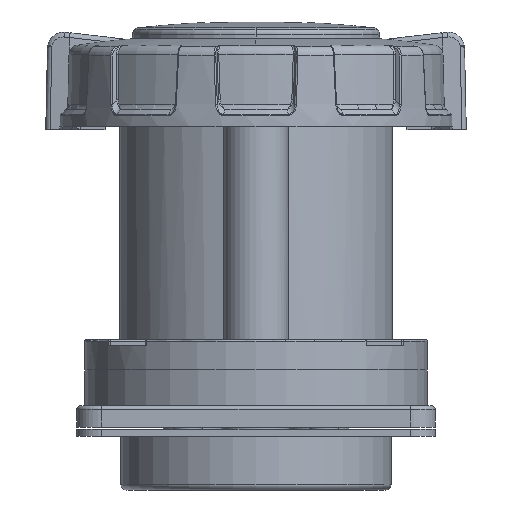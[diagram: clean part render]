
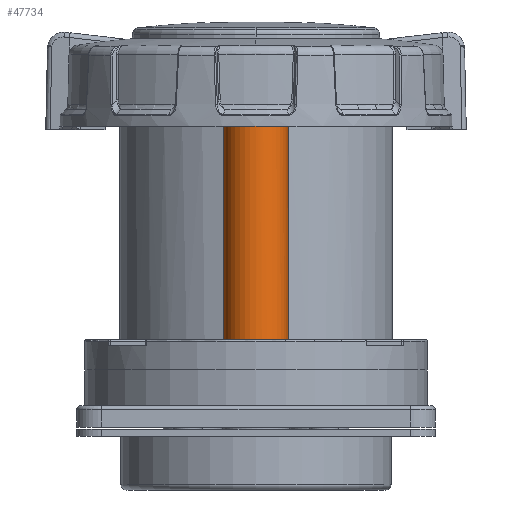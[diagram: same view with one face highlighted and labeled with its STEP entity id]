
A CAD part, front view. The second image highlights one B-rep face of the part: STEP entity #47734.
In plain terms, the highlighted cylindrical face has radius 9 mm (diameter 18 mm), a partial arc.
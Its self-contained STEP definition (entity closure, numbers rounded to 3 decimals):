
#46187 = VERTEX_POINT('',#46188);
#46188 = CARTESIAN_POINT('',(0.,-46.5,59.8));
#46291 = VERTEX_POINT('',#46292);
#46292 = CARTESIAN_POINT('',(8.209,-41.19,
    62.43));
#46299 = EDGE_CURVE('',#46300,#46291,#46302,.T.);
#46300 = VERTEX_POINT('',#46301);
#46301 = CARTESIAN_POINT('',(8.209,-41.19,
    60.3));
#46302 = LINE('',#46303,#46304);
#46303 = CARTESIAN_POINT('',(8.209,-41.19,60.3));
#46304 = VECTOR('',#46305,1.);
#46305 = DIRECTION('',(0.,0.,1.));
#46331 = EDGE_CURVE('',#46300,#46332,#46334,.T.);
#46332 = VERTEX_POINT('',#46333);
#46333 = CARTESIAN_POINT('',(8.437,-40.633,59.8));
#46334 = B_SPLINE_CURVE_WITH_KNOTS('',3,(#46335,#46336,#46337,#46338,
    #46339,#46340,#46341,#46342,#46343,#46344,#46345,#46346,#46347,
    #46348,#46349,#46350),.UNSPECIFIED.,.F.,.F.,(4,3,3,3,3,4),(0.,
    0.169,0.338,0.518,0.732,1.),
  .UNSPECIFIED.);
#46335 = CARTESIAN_POINT('',(8.209,-41.19,
    60.3));
#46336 = CARTESIAN_POINT('',(8.209,-41.19,
    60.251));
#46337 = CARTESIAN_POINT('',(8.212,-41.182,
    60.202));
#46338 = CARTESIAN_POINT('',(8.219,-41.166,
    60.156));
#46339 = CARTESIAN_POINT('',(8.226,-41.151,
    60.111));
#46340 = CARTESIAN_POINT('',(8.236,-41.129,
    60.068));
#46341 = CARTESIAN_POINT('',(8.248,-41.101,
    60.03));
#46342 = CARTESIAN_POINT('',(8.261,-41.072,
    59.989));
#46343 = CARTESIAN_POINT('',(8.276,-41.036,
    59.952));
#46344 = CARTESIAN_POINT('',(8.293,-40.997,
    59.922));
#46345 = CARTESIAN_POINT('',(8.312,-40.951,
    59.886));
#46346 = CARTESIAN_POINT('',(8.333,-40.899,
    59.858));
#46347 = CARTESIAN_POINT('',(8.355,-40.846,
    59.838));
#46348 = CARTESIAN_POINT('',(8.382,-40.778,
    59.813));
#46349 = CARTESIAN_POINT('',(8.41,-40.705,
    59.8));
#46350 = CARTESIAN_POINT('',(8.437,-40.633,59.8));
#46391 = EDGE_CURVE('',#46392,#46187,#46394,.T.);
#46392 = VERTEX_POINT('',#46393);
#46393 = CARTESIAN_POINT('',(1.5,-46.374,59.8));
#46394 = CIRCLE('',#46395,9.);
#46395 = AXIS2_PLACEMENT_3D('',#46396,#46397,#46398);
#46396 = CARTESIAN_POINT('',(0.,-37.5,59.8));
#46397 = DIRECTION('',(0.,0.,-1.));
#46398 = DIRECTION('',(0.167,-0.986,0.));
#46414 = EDGE_CURVE('',#46392,#46415,#46417,.T.);
#46415 = VERTEX_POINT('',#46416);
#46416 = CARTESIAN_POINT('',(2.,-46.275,60.3));
#46417 = B_SPLINE_CURVE_WITH_KNOTS('',3,(#46418,#46419,#46420,#46421,
    #46422,#46423,#46424,#46425,#46426,#46427,#46428,#46429,#46430,
    #46431,#46432,#46433),.UNSPECIFIED.,.F.,.F.,(4,3,3,3,3,4),(0.,
    0.219,0.439,0.658,0.873,1.),
  .UNSPECIFIED.);
#46418 = CARTESIAN_POINT('',(1.5,-46.374,59.8));
#46419 = CARTESIAN_POINT('',(1.557,-46.365,
    59.8));
#46420 = CARTESIAN_POINT('',(1.614,-46.354,
    59.81));
#46421 = CARTESIAN_POINT('',(1.668,-46.344,
    59.829));
#46422 = CARTESIAN_POINT('',(1.721,-46.334,
    59.848));
#46423 = CARTESIAN_POINT('',(1.772,-46.324,
    59.877));
#46424 = CARTESIAN_POINT('',(1.816,-46.315,
    59.913));
#46425 = CARTESIAN_POINT('',(1.86,-46.306,
    59.949));
#46426 = CARTESIAN_POINT('',(1.899,-46.297,
    59.993));
#46427 = CARTESIAN_POINT('',(1.928,-46.291,
    60.042));
#46428 = CARTESIAN_POINT('',(1.957,-46.285,
    60.09));
#46429 = CARTESIAN_POINT('',(1.978,-46.28,
    60.144));
#46430 = CARTESIAN_POINT('',(1.99,-46.277,
    60.2));
#46431 = CARTESIAN_POINT('',(1.997,-46.276,
    60.232));
#46432 = CARTESIAN_POINT('',(2.,-46.275,60.266));
#46433 = CARTESIAN_POINT('',(2.,-46.275,60.3));
#46451 = EDGE_CURVE('',#46415,#46452,#46454,.T.);
#46452 = VERTEX_POINT('',#46453);
#46453 = CARTESIAN_POINT('',(2.,-46.275,62.314));
#46454 = LINE('',#46455,#46456);
#46455 = CARTESIAN_POINT('',(2.,-46.275,60.3));
#46456 = VECTOR('',#46457,1.);
#46457 = DIRECTION('',(0.,0.,1.));
#46477 = EDGE_CURVE('',#46291,#46452,#46478,.T.);
#46478 = ELLIPSE('',#46479,9.002,9.);
#46479 = AXIS2_PLACEMENT_3D('',#46480,#46481,#46482);
#46480 = CARTESIAN_POINT('',(0.,-37.5,62.514));
#46481 = DIRECTION('',(0.,0.023,-1.));
#46482 = DIRECTION('',(0.,1.,0.023));
#46907 = EDGE_CURVE('',#46908,#46332,#46910,.T.);
#46908 = VERTEX_POINT('',#46909);
#46909 = CARTESIAN_POINT('',(9.,-37.5,59.8));
#46910 = CIRCLE('',#46911,9.);
#46911 = AXIS2_PLACEMENT_3D('',#46912,#46913,#46914);
#46912 = CARTESIAN_POINT('',(0.,-37.5,59.8));
#46913 = DIRECTION('',(0.,0.,-1.));
#46914 = DIRECTION('',(1.,0.,0.));
#47062 = VERTEX_POINT('',#47063);
#47063 = CARTESIAN_POINT('',(-9.,-37.5,59.8));
#47069 = EDGE_CURVE('',#46187,#47062,#47070,.T.);
#47070 = CIRCLE('',#47071,9.);
#47071 = AXIS2_PLACEMENT_3D('',#47072,#47073,#47074);
#47072 = CARTESIAN_POINT('',(0.,-37.5,59.8));
#47073 = DIRECTION('',(0.,0.,-1.));
#47074 = DIRECTION('',(0.,-1.,-0.));
#47707 = EDGE_CURVE('',#47708,#47062,#47710,.T.);
#47708 = VERTEX_POINT('',#47709);
#47709 = CARTESIAN_POINT('',(-9.,-37.5,0.));
#47710 = LINE('',#47711,#47712);
#47711 = CARTESIAN_POINT('',(-9.,-37.5,0.));
#47712 = VECTOR('',#47713,1.);
#47713 = DIRECTION('',(0.,0.,1.));
#47734 = ADVANCED_FACE('',(#47735),#47761,.T.);
#47735 = FACE_BOUND('',#47736,.T.);
#47736 = EDGE_LOOP('',(#47737,#47738,#47739,#47740,#47741,#47742,#47743,
    #47752,#47758,#47759,#47760));
#47737 = ORIENTED_EDGE('',*,*,#46477,.T.);
#47738 = ORIENTED_EDGE('',*,*,#46451,.F.);
#47739 = ORIENTED_EDGE('',*,*,#46414,.F.);
#47740 = ORIENTED_EDGE('',*,*,#46391,.T.);
#47741 = ORIENTED_EDGE('',*,*,#47069,.T.);
#47742 = ORIENTED_EDGE('',*,*,#47707,.F.);
#47743 = ORIENTED_EDGE('',*,*,#47744,.T.);
#47744 = EDGE_CURVE('',#47708,#47745,#47747,.T.);
#47745 = VERTEX_POINT('',#47746);
#47746 = CARTESIAN_POINT('',(9.,-37.5,0.));
#47747 = CIRCLE('',#47748,9.);
#47748 = AXIS2_PLACEMENT_3D('',#47749,#47750,#47751);
#47749 = CARTESIAN_POINT('',(0.,-37.5,0.));
#47750 = DIRECTION('',(0.,0.,1.));
#47751 = DIRECTION('',(-1.,0.,0.));
#47752 = ORIENTED_EDGE('',*,*,#47753,.F.);
#47753 = EDGE_CURVE('',#46908,#47745,#47754,.T.);
#47754 = LINE('',#47755,#47756);
#47755 = CARTESIAN_POINT('',(9.,-37.5,59.8));
#47756 = VECTOR('',#47757,1.);
#47757 = DIRECTION('',(0.,0.,-1.));
#47758 = ORIENTED_EDGE('',*,*,#46907,.T.);
#47759 = ORIENTED_EDGE('',*,*,#46331,.F.);
#47760 = ORIENTED_EDGE('',*,*,#46299,.T.);
#47761 = CYLINDRICAL_SURFACE('',#47762,9.);
#47762 = AXIS2_PLACEMENT_3D('',#47763,#47764,#47765);
#47763 = CARTESIAN_POINT('',(0.,-37.5,70.5));
#47764 = DIRECTION('',(0.,0.,1.));
#47765 = DIRECTION('',(-1.,0.,0.));
